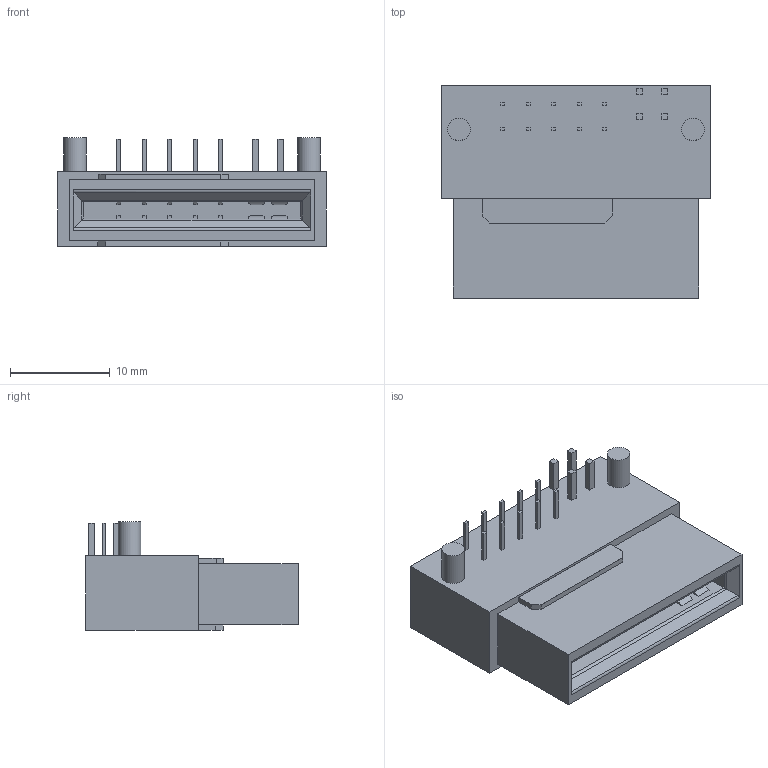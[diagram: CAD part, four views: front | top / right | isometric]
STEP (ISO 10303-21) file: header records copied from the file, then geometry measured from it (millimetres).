
FILE_DESCRIPTION (( 'STEP AP214' ), '1' );
FILE_NAME ('9302-4P02S20B11BCB30DA.STEP', '2019-08-01T12:21:08', ( '' ), ( '' ), 'SwSTEP 2.0', 'SolidWorks 2011', '' );
FILE_SCHEMA (( 'AUTOMOTIVE_DESIGN' ));
Length unit declared in the file: millimetre
Products named in the file (1): 9302-4P02S20B11BCB30DA
Bounding box: 26.9 x 21.24 x 10.9 mm (x, y, z)
Volume: 3447.5 mm3; surface area: 2495.1 mm2
Topology: 1 solids, 11 shells, 482 faces, 1236 edges, 798 vertices
Faces by surface type: plane 395, cylinder 87
Full cylindrical faces by diameter (mm): 2.254 x2
Entity records: 19504 total; most frequent: CARTESIAN_POINT 2563, ORIENTED_EDGE 2468, DIRECTION 2346, EDGE_CURVE 1234, VECTOR 1056, LINE 1056, VERTEX_POINT 798, AXIS2_PLACEMENT_3D 645
